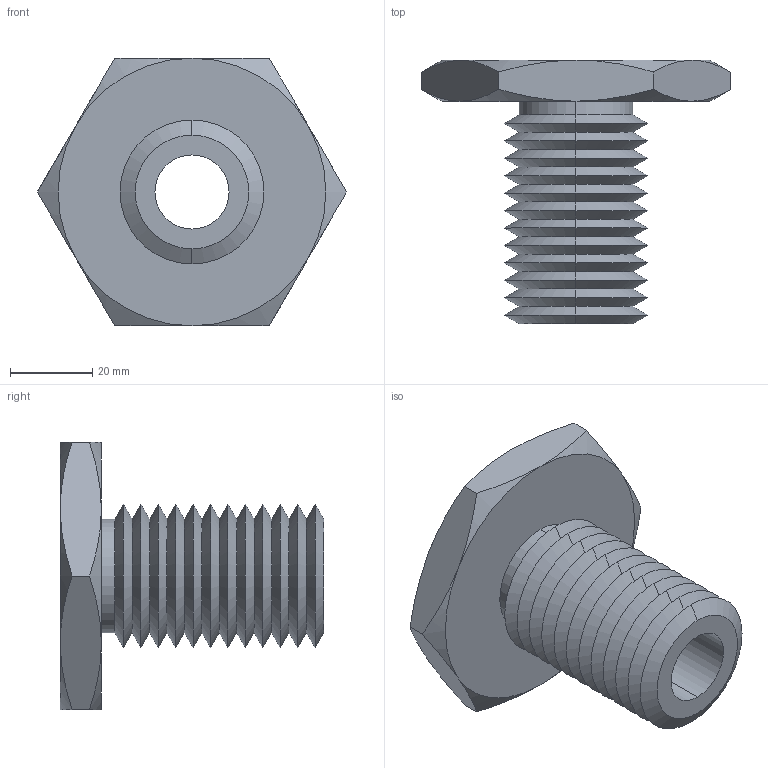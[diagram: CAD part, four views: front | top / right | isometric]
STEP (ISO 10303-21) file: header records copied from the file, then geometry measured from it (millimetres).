
FILE_DESCRIPTION (( 'STEP AP203' ), '1' );
FILE_NAME ('63302.W5138_M18x2,5.step', '2013-12-08T11:42:02', ( 'User' ), ( '' ), 'SwSTEP 2.0', 'SolidWorks 2009', '' );
FILE_SCHEMA (( 'CONFIG_CONTROL_DESIGN' ));
Length unit declared in the file: millimetre
Products named in the file (1): 63302.W5138_M18x2,5
Bounding box: 75.06 x 64 x 65 mm (x, y, z)
Volume: 60605.3 mm3; surface area: 22515.1 mm2
Topology: 1 solids, 1 shells, 75 faces, 154 edges, 82 vertices
Faces by surface type: cone 62, plane 9, cylinder 4
Entity records: 2139 total; most frequent: CARTESIAN_POINT 496, DIRECTION 352, ORIENTED_EDGE 308, EDGE_CURVE 154, AXIS2_PLACEMENT_3D 146, VERTEX_POINT 82, EDGE_LOOP 78, ADVANCED_FACE 75
